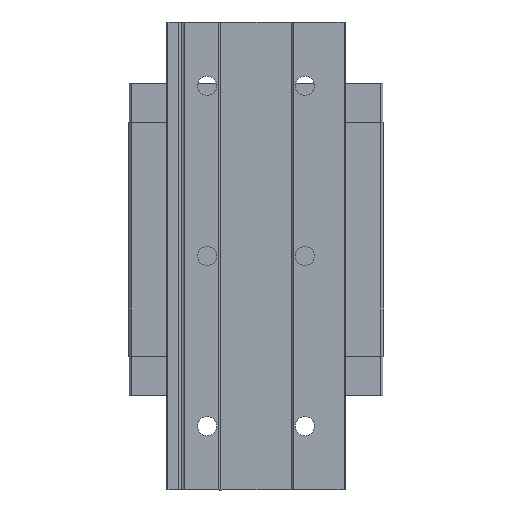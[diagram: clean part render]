
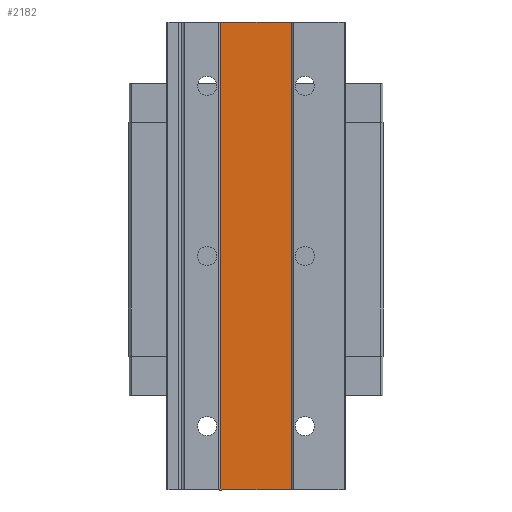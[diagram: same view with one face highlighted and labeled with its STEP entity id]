
A CAD part, front view. The second image highlights one B-rep face of the part: STEP entity #2182.
In plain terms, the highlighted planar face has unit normal (0, -1, 0) as drawn and (0, 0, -1) by its records, which use the part's own axes.
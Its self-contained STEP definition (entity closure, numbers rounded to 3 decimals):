
#10 = ORIENTED_EDGE ( 'NONE', *, *, #2670, .F. ) ;
#16 = ORIENTED_EDGE ( 'NONE', *, *, #2419, .T. ) ;
#52 = ORIENTED_EDGE ( 'NONE', *, *, #2726, .F. ) ;
#77 = ORIENTED_EDGE ( 'NONE', *, *, #2026, .T. ) ;
#212 = LINE ( 'NONE', #4892, #253 ) ;
#253 = VECTOR ( 'NONE', #4887, 1000. ) ;
#312 = VECTOR ( 'NONE', #5035, 1000. ) ;
#617 = LINE ( 'NONE', #5044, #312 ) ;
#785 = VECTOR ( 'NONE', #5452, 1000. ) ;
#789 = EDGE_LOOP ( 'NONE', ( #10, #16, #52, #77 ) ) ;
#800 = LINE ( 'NONE', #5439, #785 ) ;
#803 = VERTEX_POINT ( 'NONE', #2258 ) ;
#1082 = FACE_OUTER_BOUND ( 'NONE', #789, .T. ) ;
#1163 = CARTESIAN_POINT ( 'NONE',  ( -8.3, -55., -4.258 ) ) ;
#1242 = VERTEX_POINT ( 'NONE', #1163 ) ;
#1414 = CARTESIAN_POINT ( 'NONE',  ( 8.3, 55., -4.258 ) ) ;
#1578 = VERTEX_POINT ( 'NONE', #5657 ) ;
#1614 = VECTOR ( 'NONE', #2238, 1000. ) ;
#2017 = LINE ( 'NONE', #2129, #1614 ) ;
#2026 = EDGE_CURVE ( 'NONE', #1242, #1578, #2017, .T. ) ;
#2129 = CARTESIAN_POINT ( 'NONE',  ( -8.3, 0., -4.258 ) ) ;
#2182 = ADVANCED_FACE ( 'NONE', ( #1082 ), #5903, .T. ) ;
#2238 = DIRECTION ( 'NONE',  ( 0., 1., 0. ) ) ;
#2258 = CARTESIAN_POINT ( 'NONE',  ( 8.3, -55., -4.258 ) ) ;
#2419 = EDGE_CURVE ( 'NONE', #3959, #803, #800, .T. ) ;
#2670 = EDGE_CURVE ( 'NONE', #3959, #1578, #617, .T. ) ;
#2726 = EDGE_CURVE ( 'NONE', #1242, #803, #212, .T. ) ;
#3959 = VERTEX_POINT ( 'NONE', #1414 ) ;
#4662 = AXIS2_PLACEMENT_3D ( 'NONE', #5893, #5863, #5861 ) ;
#4887 = DIRECTION ( 'NONE',  ( 1., 0., 0. ) ) ;
#4892 = CARTESIAN_POINT ( 'NONE',  ( 0., -55., -4.258 ) ) ;
#5035 = DIRECTION ( 'NONE',  ( -1., 0., 0. ) ) ;
#5044 = CARTESIAN_POINT ( 'NONE',  ( 0., 55., -4.258 ) ) ;
#5439 = CARTESIAN_POINT ( 'NONE',  ( 8.3, 0., -4.258 ) ) ;
#5452 = DIRECTION ( 'NONE',  ( 0., -1., 0. ) ) ;
#5657 = CARTESIAN_POINT ( 'NONE',  ( -8.3, 55., -4.258 ) ) ;
#5861 = DIRECTION ( 'NONE',  ( -1., 0., 0. ) ) ;
#5863 = DIRECTION ( 'NONE',  ( 0., 0., -1. ) ) ;
#5893 = CARTESIAN_POINT ( 'NONE',  ( 8.3, -55., -4.258 ) ) ;
#5903 = PLANE ( 'NONE',  #4662 ) ;
